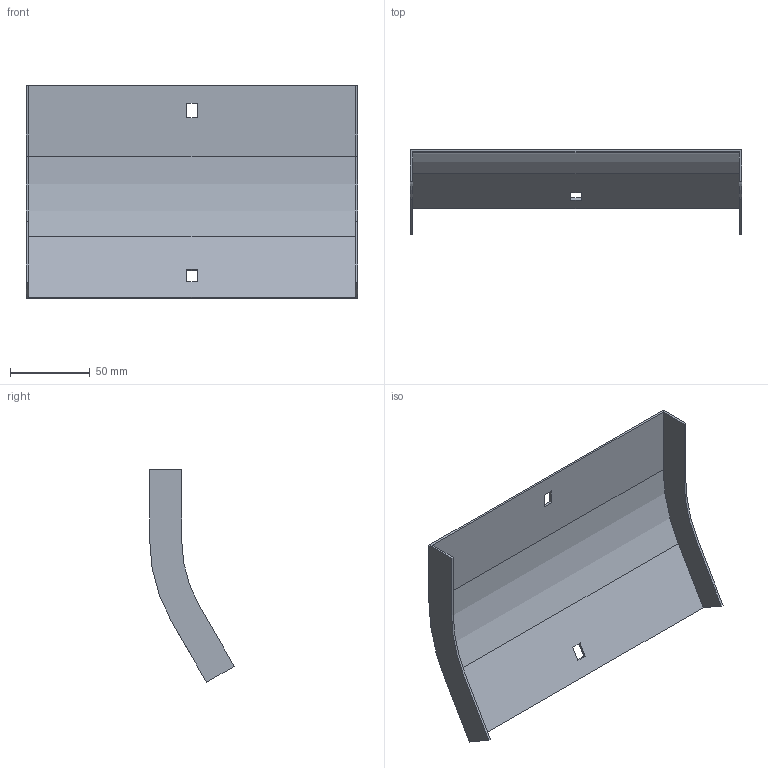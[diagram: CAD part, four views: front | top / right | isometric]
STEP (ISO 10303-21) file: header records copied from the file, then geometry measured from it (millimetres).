
FILE_DESCRIPTION (( 'STEP AP214' ), '1' );
FILE_NAME ('35G1B200.step', '2025-02-21T12:41:25', ( '' ), ( '' ), 'SwSTEP 2.0', 'SolidWorks 2023', '' );
FILE_SCHEMA (( 'AUTOMOTIVE_DESIGN' ));
Length unit declared in the file: millimetre
Products named in the file (1): 35G1B200
Bounding box: 207 x 52.92 x 132.86 mm (x, y, z)
Volume: 51049.3 mm3; surface area: 69284 mm2
Topology: 1 solids, 1 shells, 26 faces, 72 edges, 48 vertices
Faces by surface type: plane 22, cylinder 4
Entity records: 855 total; most frequent: CARTESIAN_POINT 147, ORIENTED_EDGE 144, DIRECTION 134, EDGE_CURVE 72, VECTOR 64, LINE 64, VERTEX_POINT 48, AXIS2_PLACEMENT_3D 35
